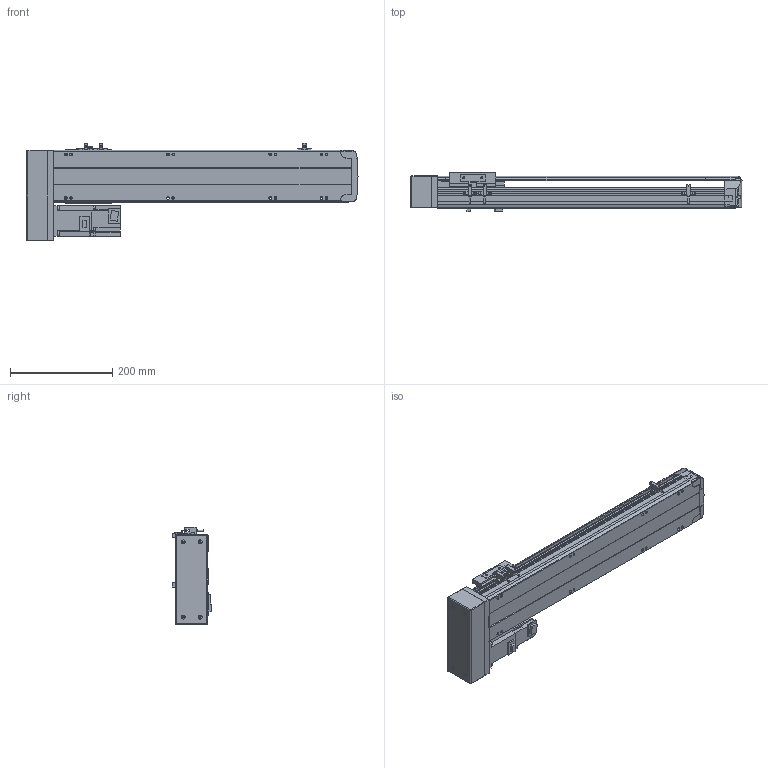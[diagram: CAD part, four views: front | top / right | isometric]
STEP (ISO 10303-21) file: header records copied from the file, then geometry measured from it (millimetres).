
FILE_DESCRIPTION( ( 'STEP AP214' ), '1' );
FILE_NAME( 'x:/temp/worker_27/temp/exporttempdir_6708_96_yBqEQ/format_0/PSS120-L10-S400-BR-T40-C1-N(0).stp', '2022-06-06T00:30:21', ( 'License CC BY-ND 4.0' ), ( 'CADENAS' ), ' ', 'PARTsolutions', ' ' );
FILE_SCHEMA( ( 'AUTOMOTIVE_DESIGN { 1 0 10303 214 1 1 1 1 }' ) );
Length unit declared in the file: millimetre
Products named in the file (8): PSS120-L10-S400-BR-T40-C1-N(0); _PSS120-S400-BR-C1-N_body; _PSS120-N_Q; _PSS120-BR-C1-N_sl; _PSS120-N_sensor; _PSS120BR-N_h; _T40-p1; _PSS120-S400-BR-N_S
Assembly tree (9 placements, depth 2):
  PSS120-L10-S400-BR-T40-C1-N(0)
    _PSS120-S400-BR-C1-N_body
    _PSS120-N_Q
    _PSS120-BR-C1-N_sl
    _PSS120-N_sensor  x3
    _PSS120BR-N_h
    _T40-p1
    _PSS120-S400-BR-N_S
Bounding box: 649.35 x 76.8 x 191.2 mm (x, y, z)
Volume: 2904585.2 mm3; surface area: 488638.4 mm2
Topology: 9 solids, 9 shells, 816 faces, 2189 edges, 1448 vertices
Faces by surface type: plane 583, cylinder 213, cone 16, sphere 4
Full cylindrical faces by diameter (mm): 2.8 x3, 4 x4, 4.134 x12, 4.4 x2, 4.5 x4, 4.6 x3, 5 x6, 5.5 x15, 7 x2, 7.4 x4, 8 x4, 8.5 x12, 14 x1, 28 x1, 32 x2, 50 x1
Entity records: 27901 total; most frequent: CARTESIAN_POINT 4275, DIRECTION 3655, ORIENTED_EDGE 3586, EDGE_CURVE 1793, LINE 1303, VECTOR 1303, VERTEX_POINT 1236, AXIS2_PLACEMENT_3D 1176
